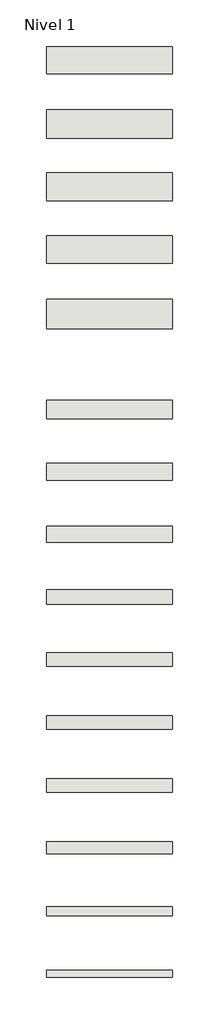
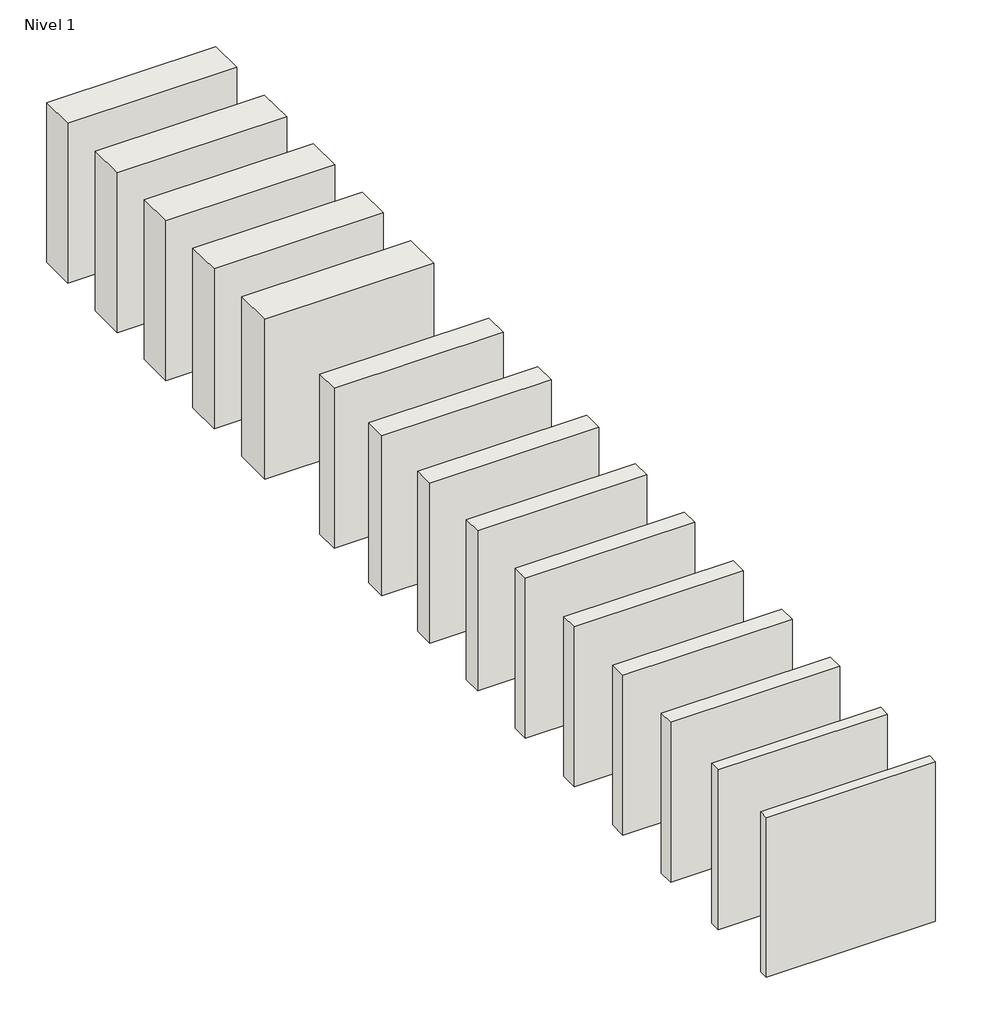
# One storey: 15 walls.
"""IFC4 building model written with IfcOpenShell, lengths in millimetres."""

from ifc_helpers import new_model, si_unit, origin, origin_with_axes, place, context, project, spatial, polyline, outline, extrude, element, save

model = new_model("IFC4")

# Units and contexts
model_context = context("Model", 3, world=origin())
ifc_project = project(units=[si_unit("LENGTHUNIT", "METRE", prefix="MILLI")], contexts=[model_context])

# Site, building, storey
site = spatial("IfcSite", under=ifc_project)
building = spatial("IfcBuilding", under=site)
storey = spatial("IfcBuildingStorey", under=building, Name="Nivel 1", Elevation=0.0)

# Walls
placement = place(None, origin())
element("IfcWall", 1, ObjectType="Tabimax Megabrick 4", at=placement, inside=storey, context=model_context, shape_type="SweptSolid", body=[
    extrude(outline(polyline([(-1966.2152419, 1661.7890128), (-2966.2152419, 1661.7890128), (-2966.2152419, 1719.7890128), (-1966.2152419, 1719.7890128), (-1966.2152419, 1661.7890128)])), origin_with_axes(), (0.0, 0.0, 1.0), 1000.0),
])
element("IfcWall", 2, ObjectType="Tabimax Megabrick 5", at=placement, inside=storey, context=model_context, shape_type="SweptSolid", body=[
    extrude(outline(polyline([(-1966.2152419, 2151.7890128), (-2966.2152419, 2151.7890128), (-2966.2152419, 2219.7890128), (-1966.2152419, 2219.7890128), (-1966.2152419, 2151.7890128)])), origin_with_axes(), (0.0, 0.0, 1.0), 1000.0),
])
element("IfcWall", 3, ObjectType="Tabimax Megabrick 6", at=placement, inside=storey, context=model_context, shape_type="SweptSolid", body=[
    extrude(outline(polyline([(-1966.2152419, 2641.7890128), (-2966.2152419, 2641.7890128), (-2966.2152419, 2737.7890128), (-1966.2152419, 2737.7890128), (-1966.2152419, 2641.7890128)])), origin_with_axes(), (0.0, 0.0, 1.0), 1000.0),
])
element("IfcWall", 4, ObjectType="Tabimax Megabrick 7 Tabique", at=placement, inside=storey, context=model_context, shape_type="SweptSolid", body=[
    extrude(outline(polyline([(-1966.2152419, 3129.8319856), (-2966.2152419, 3129.8319856), (-2966.2152419, 3233.8319856), (-1966.2152419, 3233.8319856), (-1966.2152419, 3129.8319856)])), origin_with_axes(), (0.0, 0.0, 1.0), 1000.0),
])
element("IfcWall", 5, ObjectType="Tabimax Megabrick 7 Triple Acústico", at=placement, inside=storey, context=model_context, shape_type="SweptSolid", body=[
    extrude(outline(polyline([(-1966.2152419, 3627.8319856), (-2966.2152419, 3627.8319856), (-2966.2152419, 3733.8319856), (-1966.2152419, 3733.8319856), (-1966.2152419, 3627.8319856)])), origin_with_axes(), (0.0, 0.0, 1.0), 1000.0),
])
element("IfcWall", 6, ObjectType="Tabimax Megabrick 7", at=placement, inside=storey, context=model_context, shape_type="SweptSolid", body=[
    extrude(outline(polyline([(-1966.2152419, 4127.8319856), (-2966.2152419, 4127.8319856), (-2966.2152419, 4233.8319856), (-1966.2152419, 4233.8319856), (-1966.2152419, 4127.8319856)])), origin_with_axes(), (0.0, 0.0, 1.0), 1000.0),
])
element("IfcWall", 7, ObjectType="Tabimax Megabrick 8", at=placement, inside=storey, context=model_context, shape_type="SweptSolid", body=[
    extrude(outline(polyline([(-1966.2152419, 4617.8319856), (-2966.2152419, 4617.8319856), (-2966.2152419, 4733.8319856), (-1966.2152419, 4733.8319856), (-1966.2152419, 4617.8319856)])), origin_with_axes(), (0.0, 0.0, 1.0), 1000.0),
])
element("IfcWall", 8, ObjectType="Tabimax Megabrick 9", at=placement, inside=storey, context=model_context, shape_type="SweptSolid", body=[
    extrude(outline(polyline([(-1966.2152419, 5107.8319856), (-2966.2152419, 5107.8319856), (-2966.2152419, 5233.8319856), (-1966.2152419, 5233.8319856), (-1966.2152419, 5107.8319856)])), origin_with_axes(), (0.0, 0.0, 1.0), 1000.0),
])
element("IfcWall", 9, ObjectType="Tabimax Megabrick 10", at=placement, inside=storey, context=model_context, shape_type="SweptSolid", body=[
    extrude(outline(polyline([(-1966.2152419, 5597.8319856), (-2966.2152419, 5597.8319856), (-2966.2152419, 5733.8319856), (-1966.2152419, 5733.8319856), (-1966.2152419, 5597.8319856)])), origin_with_axes(), (0.0, 0.0, 1.0), 1000.0),
])
element("IfcWall", 10, ObjectType="Tabimax Megabrick Triplex 11 cm", at=placement, inside=storey, context=model_context, shape_type="SweptSolid", body=[
    extrude(outline(polyline([(-1966.2152419, 6087.8319856), (-2966.2152419, 6087.8319856), (-2966.2152419, 6233.8319856), (-1966.2152419, 6233.8319856), (-1966.2152419, 6087.8319856)])), origin_with_axes(), (0.0, 0.0, 1.0), 1000.0),
])
element("IfcWall", 11, ObjectType="Tabimax doble hoja Megabrick Triplex 11 cm + lana mineral + Megabrick 5", at=placement, inside=storey, context=model_context, shape_type="SweptSolid", body=[
    extrude(outline(polyline([(-1966.2152419, 6797.8319856), (-2966.2152419, 6797.8319856), (-2966.2152419, 7033.8319856), (-1966.2152419, 7033.8319856), (-1966.2152419, 6797.8319856)])), origin_with_axes(), (0.0, 0.0, 1.0), 1000.0),
])
element("IfcWall", 12, ObjectType="Tabimax doble hoja Megabrick Triple Acústico 7 + lana mineral + Megabrick 6", at=placement, inside=storey, context=model_context, shape_type="SweptSolid", body=[
    extrude(outline(polyline([(-1966.2152419, 7317.8319856), (-2966.2152419, 7317.8319856), (-2966.2152419, 7533.8319856), (-1966.2152419, 7533.8319856), (-1966.2152419, 7317.8319856)])), origin_with_axes(), (0.0, 0.0, 1.0), 1000.0),
])
element("IfcWall", 13, ObjectType="Tabimax doble hoja Megabrick Triple Acústico 7 + lana mineral + Megabrick 7", at=placement, inside=storey, context=model_context, shape_type="SweptSolid", body=[
    extrude(outline(polyline([(-1966.2152419, 7812.8319856), (-2966.2152419, 7812.8319856), (-2966.2152419, 8033.8319856), (-1966.2152419, 8033.8319856), (-1966.2152419, 7812.8319856)])), origin_with_axes(), (0.0, 0.0, 1.0), 1000.0),
])
element("IfcWall", 14, ObjectType="Tabimax doble hoja Megabrick 7 + enfoscado mortero + lana mineral + Megabrick 7", at=placement, inside=storey, context=model_context, shape_type="SweptSolid", body=[
    extrude(outline(polyline([(-1966.2152419, 8307.8319856), (-2966.2152419, 8307.8319856), (-2966.2152419, 8533.8319856), (-1966.2152419, 8533.8319856), (-1966.2152419, 8307.8319856)])), origin_with_axes(), (0.0, 0.0, 1.0), 1000.0),
])
element("IfcWall", 15, ObjectType="Tabimax doble hoja Megabrick 7 + lana mineral + Megabrick 7", at=placement, inside=storey, context=model_context, shape_type="SweptSolid", body=[
    extrude(outline(polyline([(-1966.2152419, 8817.8319856), (-2966.2152419, 8817.8319856), (-2966.2152419, 9033.8319856), (-1966.2152419, 9033.8319856), (-1966.2152419, 8817.8319856)])), origin_with_axes(), (0.0, 0.0, 1.0), 1000.0),
])

save(model, "model.ifc")
